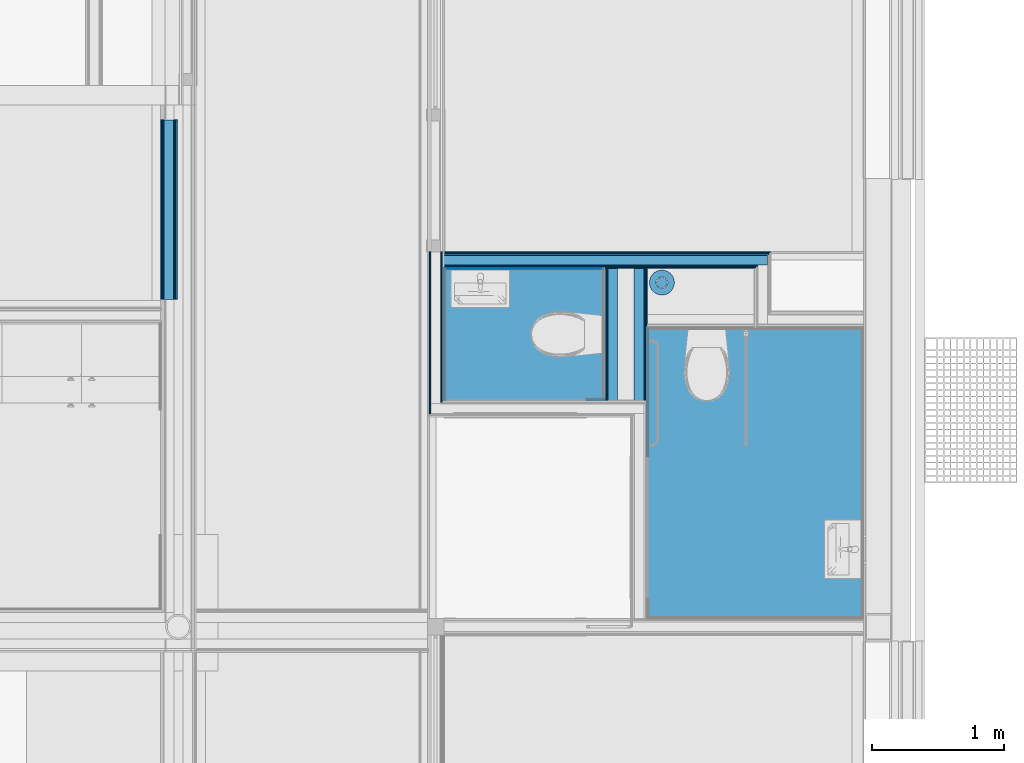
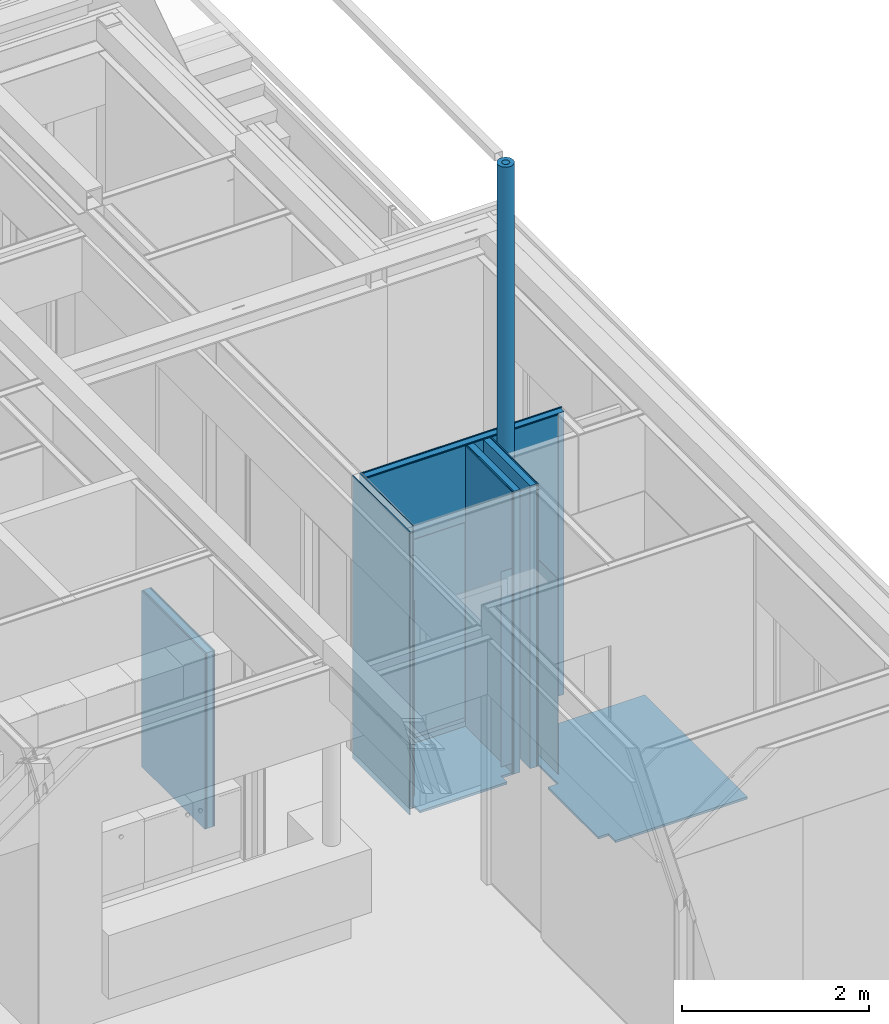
# One storey, part 74 of 165: 27 building element parts, 12 elements without a shape of their own.
"""IFC2X3 building model written with IfcOpenShell, lengths in millimetres."""

from ifc_helpers import new_model, entity, si_unit, converted_unit, derived_unit, money_unit, direction, frame, origin_with_axes, place, context, subcontext, project, spatial, faceted_brep, material, type_object, element, aggregate, save


model = new_model("IFC2X3")

# Units and contexts
model_context = context("Model", 3, precision=0.01, world=origin_with_axes(), true_north=direction((0.0, 1.0)))
body_context = subcontext(model_context, "Body", "Model", "MODEL_VIEW")
ifc_project = project(units=[si_unit("LENGTHUNIT", "METRE", prefix="MILLI"), si_unit("AREAUNIT", "SQUARE_METRE"), si_unit("VOLUMEUNIT", "CUBIC_METRE"), converted_unit("PLANEANGLEUNIT", "DEGREE", entity("IfcPlaneAngleMeasure", 0.0174532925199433), si_unit("PLANEANGLEUNIT", "RADIAN"), dimensions=[0, 0, 0, 0, 0, 0, 0]), money_unit("EUR"), converted_unit("TIMEUNIT", "Year", entity("IfcTimeMeasure", 31556926.0), si_unit("TIMEUNIT", "SECOND"), dimensions=[0, 0, 1, 0, 0, 0, 0]), si_unit("MASSUNIT", "GRAM", prefix="KILO"), si_unit("THERMODYNAMICTEMPERATUREUNIT", "DEGREE_CELSIUS"), si_unit("LUMINOUSINTENSITYUNIT", "LUMEN"), si_unit("ENERGYUNIT", "JOULE", prefix="MEGA"), derived_unit("THERMALCONDUCTANCEUNIT", [(si_unit("POWERUNIT", "WATT"), 1), (si_unit("LENGTHUNIT", "METRE"), -1), (si_unit("THERMODYNAMICTEMPERATUREUNIT", "KELVIN"), -1)]), derived_unit("SPECIFICHEATCAPACITYUNIT", [(si_unit("ENERGYUNIT", "JOULE"), 1), (si_unit("MASSUNIT", "GRAM", prefix="KILO"), -1), (si_unit("THERMODYNAMICTEMPERATUREUNIT", "KELVIN"), -1)]), derived_unit("MASSDENSITYUNIT", [(si_unit("MASSUNIT", "GRAM", prefix="KILO"), 1), (si_unit("VOLUMEUNIT", "CUBIC_METRE"), -1)])], contexts=[model_context])

# Site, building, storey
site_placement = place(None, origin_with_axes())
site = spatial("IfcSite", under=ifc_project, at=site_placement, Name="Site", CompositionType="ELEMENT")
building_placement = place(site_placement, origin_with_axes())
building = spatial("IfcBuilding", under=site, at=building_placement, Name="Naam gebouw", CompositionType="ELEMENT")
storey_placement = place(building_placement, origin_with_axes())
storey = spatial("IfcBuildingStorey", under=building, at=storey_placement, Name="Begane grond", CompositionType="ELEMENT", Elevation=0.0)

# Proxy, building element parts
building_element_proxy_type_1 = type_object("IfcBuildingElementProxyType", Name="22 Metal stud 125 gips 125", PredefinedType="NOTDEFINED")
proxy_1_placement = place(storey_placement, frame((26386.00000000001, 13524.99778166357, -100.0), z_axis=(0.0, 0.0, 1.0), x_axis=(1.0, 0.0, 0.0)))
proxy_1 = element("IfcBuildingElementProxy", 1, at=proxy_1_placement, inside=storey, type_object=building_element_proxy_type_1, Name="_Wand-x")
ifc_material_1 = material(Name="Gipsplaat")
building_element_part_1_placement = place(proxy_1_placement, origin_with_axes())
building_element_part_1 = element("IfcBuildingElementPart", 2, at=building_element_part_1_placement, material=ifc_material_1, Name="Gipsplaat", context=body_context, shape_type="Brep", body=[
    faceted_brep([(2599.999999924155, 112.5000000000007, 0.0), (125.0, 112.5000000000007, 0.0), (125.0, 125.0, 0.0), (2599.999999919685, 125.0, 0.0), (2599.999999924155, 112.5000000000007, 3700.0), (125.0, 112.5000000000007, 3700.0), (125.0, 125.0, 3700.0), (2599.999999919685, 125.0, 3700.0)], [[[0, 1, 2, 3]], [[4, 5, 1, 0]], [[2, 1, 5, 6]], [[3, 2, 6, 7]], [[3, 7, 4, 0]], [[7, 6, 5, 4]]]),
])
building_element_part_2_placement = place(proxy_1_placement, origin_with_axes())
building_element_part_2 = element("IfcBuildingElementPart", 3, at=building_element_part_2_placement, material=ifc_material_1, Name="Gipsplaat", context=body_context, shape_type="Brep", body=[
    faceted_brep([(2499.999999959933, 12.49999999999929, 0.0), (125.0, 12.49999999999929, 0.0), (125.0, 25.00000000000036, 0.0), (2499.99999995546, 25.00000000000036, 0.0), (2499.999999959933, 12.50000000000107, 3700.0), (125.0, 12.50000000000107, 3700.0), (125.0, 25.00000000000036, 3700.0), (2499.99999995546, 25.00000000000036, 3700.0)], [[[0, 1, 2, 3]], [[4, 5, 1, 0]], [[2, 1, 5, 6]], [[3, 2, 6, 7]], [[3, 7, 4, 0]], [[7, 6, 5, 4]]]),
])
building_element_part_3_placement = place(proxy_1_placement, origin_with_axes())
building_element_part_3 = element("IfcBuildingElementPart", 4, at=building_element_part_3_placement, material=ifc_material_1, Name="Gipsplaat", context=body_context, shape_type="Brep", body=[
    faceted_brep([(2587.499999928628, 99.99999999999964, 0.0), (125.0, 99.99999999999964, 0.0), (125.0, 112.5000000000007, 0.0), (2587.499999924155, 112.5000000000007, 0.0), (2587.499999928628, 99.99999999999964, 3700.0), (125.0, 99.99999999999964, 3700.0), (125.0, 112.5000000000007, 3700.0), (2587.499999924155, 112.5000000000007, 3700.0)], [[[0, 1, 2, 3]], [[4, 5, 1, 0]], [[2, 1, 5, 6]], [[3, 2, 6, 7]], [[3, 7, 4, 0]], [[7, 6, 5, 4]]]),
])
ifc_material_2 = material(Name="ALG - LICHTE SCHEIDINGSWAND")
building_element_part_4_placement = place(proxy_1_placement, origin_with_axes())
building_element_part_4 = element("IfcBuildingElementPart", 5, at=building_element_part_4_placement, material=ifc_material_2, Name="ALG - LICHTE SCHEIDINGSWAND", context=body_context, shape_type="Brep", body=[
    faceted_brep([(2574.999999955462, 25.00000000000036, 0.0), (125.0, 25.00000000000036, 0.0), (125.0, 99.99999999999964, 0.0), (2574.999999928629, 99.99999999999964, 0.0), (2574.999999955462, 25.00000000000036, 3700.0), (125.0, 25.00000000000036, 3700.0), (125.0, 99.99999999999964, 3700.0), (2574.999999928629, 99.99999999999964, 3700.0)], [[[0, 1, 2, 3]], [[4, 5, 1, 0]], [[2, 1, 5, 6]], [[3, 2, 6, 7]], [[3, 7, 4, 0]], [[7, 6, 5, 4]]]),
])
building_element_part_5_placement = place(proxy_1_placement, origin_with_axes())
building_element_part_5 = element("IfcBuildingElementPart", 6, at=building_element_part_5_placement, material=ifc_material_1, Name="Gipsplaat", context=body_context, shape_type="Brep", body=[
    faceted_brep([(2487.499999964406, 0.0, 0.0), (125.0, 0.0, 0.0), (125.0, 12.49999999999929, 0.0), (2487.499999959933, 12.49999999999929, 0.0), (2487.499999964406, 0.0, 3700.0), (125.0, 0.0, 3700.0), (125.0, 12.50000000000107, 3700.0), (2487.499999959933, 12.50000000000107, 3700.0)], [[[0, 1, 2, 3]], [[4, 5, 1, 0]], [[2, 1, 5, 6]], [[3, 2, 6, 7]], [[3, 7, 4, 0]], [[7, 6, 5, 4]]]),
])
aggregate(proxy_1, [building_element_part_1, building_element_part_2, building_element_part_3, building_element_part_4, building_element_part_5])

building_element_proxy_type_2 = type_object("IfcBuildingElementProxyType", Name="22 Metal stud 100 voorzetwand 100", PredefinedType="NOTDEFINED")
proxy_2_placement = place(storey_placement, frame((27724.99819637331, 13524.99805904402, -100.0), z_axis=(0.0, 0.0, 1.0), x_axis=(-4.734246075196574e-08, -0.9999999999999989, 0.0)))
proxy_2 = element("IfcBuildingElementProxy", 7, at=proxy_2_placement, inside=storey, type_object=building_element_proxy_type_2, Name="_Wand-x")
building_element_part_6_placement = place(proxy_2_placement, origin_with_axes())
building_element_part_6 = element("IfcBuildingElementPart", 8, at=building_element_part_6_placement, material=ifc_material_2, Name="ALG - LICHTE SCHEIDINGSWAND", context=body_context, shape_type="Brep", body=[
    faceted_brep([(999.998947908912, 25.00004734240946, 0.0), (0.0002761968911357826, 25.00000000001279, 0.0), (0.0002726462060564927, 100.0000000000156, 0.0), (999.9988947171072, 100.0000473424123, 0.0), (999.998947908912, 25.00004734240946, 3700.0), (0.0002761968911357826, 25.00000000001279, 3700.0), (0.0002726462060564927, 100.0000000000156, 3700.0), (999.9988947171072, 100.0000473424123, 3700.0)], [[[0, 1, 2, 3]], [[4, 5, 1, 0]], [[2, 1, 5, 6]], [[3, 2, 6, 7]], [[3, 7, 4, 0]], [[7, 6, 5, 4]]]),
])
building_element_part_7_placement = place(proxy_2_placement, origin_with_axes())
building_element_part_7 = element("IfcBuildingElementPart", 9, at=building_element_part_7_placement, material=ifc_material_1, Name="Gipsplaat", context=body_context, shape_type="Brep", body=[
    faceted_brep([(999.9989567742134, 12.50004734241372, 0.0), (0.0002767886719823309, 12.5000000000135, 0.0), (0.0002761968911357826, 25.00000000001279, 0.0), (999.998947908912, 25.00004734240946, 0.0), (999.9989567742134, 12.50004734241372, 3700.0), (0.0002767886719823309, 12.5000000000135, 3700.0), (0.0002761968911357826, 25.00000000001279, 3700.0), (999.998947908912, 25.00004734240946, 3700.0)], [[[0, 1, 2, 3]], [[4, 5, 1, 0]], [[2, 1, 5, 6]], [[3, 2, 6, 7]], [[3, 7, 4, 0]], [[7, 6, 5, 4]]]),
])
building_element_part_8_placement = place(proxy_2_placement, origin_with_axes())
building_element_part_8 = element("IfcBuildingElementPart", 10, at=building_element_part_8_placement, material=ifc_material_1, Name="Gipsplaat", context=body_context, shape_type="Brep", body=[
    faceted_brep([(999.998965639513, 4.734241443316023e-05, 0.0), (0.0002773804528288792, 0.0, 0.0), (0.0002767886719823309, 12.5000000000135, 0.0), (999.9989567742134, 12.50004734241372, 0.0), (999.998965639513, 4.734241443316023e-05, 3700.0), (0.0002773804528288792, 0.0, 3700.0), (0.0002767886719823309, 12.5000000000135, 3700.0), (999.9989567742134, 12.50004734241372, 3700.0)], [[[0, 1, 2, 3]], [[4, 5, 1, 0]], [[2, 1, 5, 6]], [[3, 2, 6, 7]], [[3, 7, 4, 0]], [[7, 6, 5, 4]]]),
])
aggregate(proxy_2, [building_element_part_6, building_element_part_7, building_element_part_8])

building_element_proxy_type_3 = type_object("IfcBuildingElementProxyType", Name="22 Metal stud 125 oregon pine 125", PredefinedType="NOTDEFINED")
proxy_3_placement = place(storey_placement, frame((26386.00000000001, 13649.99778166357, -100.0), z_axis=(0.0, 0.0, 1.0), x_axis=(0.0, -1.0, 0.0)))
proxy_3 = element("IfcBuildingElementProxy", 11, at=proxy_3_placement, inside=storey, type_object=building_element_proxy_type_3, Name="_Wand-x")
building_element_part_9_placement = place(proxy_3_placement, origin_with_axes())
building_element_part_9 = element("IfcBuildingElementPart", 12, at=building_element_part_9_placement, material=ifc_material_1, Name="Gipsplaat", context=body_context, shape_type="Brep", body=[
    faceted_brep([(1137.499508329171, 100.0000000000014, 0.0), (0.0, 100.0000000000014, 0.0), (0.0, 112.5000000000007, 0.0), (1137.49950005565, 112.5000000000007, 0.0), (1137.499508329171, 100.0000000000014, 3700.0), (0.0, 100.0000000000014, 3700.0), (0.0, 112.5000000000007, 3700.0), (1137.49950005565, 112.5000000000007, 3700.0)], [[[0, 1, 2, 3]], [[4, 5, 1, 0]], [[2, 1, 5, 6]], [[3, 2, 6, 7]], [[3, 7, 4, 0]], [[7, 6, 5, 4]]]),
])
building_element_part_10_placement = place(proxy_3_placement, origin_with_axes())
building_element_part_10 = element("IfcBuildingElementPart", 13, at=building_element_part_10_placement, material=ifc_material_1, Name="Gipsplaat", context=body_context, shape_type="Brep", body=[
    faceted_brep([(1224.999566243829, 12.49999999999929, 0.0), (0.0, 12.49999999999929, 0.0), (0.0, 24.99999999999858, 0.0), (1224.99955797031, 24.99999999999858, 0.0), (1224.999566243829, 12.49999999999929, 3700.0), (0.0, 12.49999999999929, 3700.0), (0.0, 24.99999999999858, 3700.0), (1224.99955797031, 24.99999999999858, 3700.0)], [[[0, 1, 2, 3]], [[4, 5, 1, 0]], [[2, 1, 5, 6]], [[3, 2, 6, 7]], [[3, 7, 4, 0]], [[7, 6, 5, 4]]]),
])
aggregate(proxy_3, [building_element_part_9, building_element_part_10])

proxy_4_placement = place(storey_placement, frame((28049.99885825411, 12524.99930851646, -100.0), z_axis=(0.0, 0.0, 1.0), x_axis=(-6.618815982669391e-07, 0.999999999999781, 0.0)))
proxy_4 = element("IfcBuildingElementProxy", 14, at=proxy_4_placement, inside=storey, type_object=building_element_proxy_type_2, Name="_Wand-x")
building_element_part_11_placement = place(proxy_4_placement, origin_with_axes())
building_element_part_11 = element("IfcBuildingElementPart", 15, at=building_element_part_11_placement, material=ifc_material_2, Name="ALG - LICHTE SCHEIDINGSWAND", context=body_context, shape_type="Brep", body=[
    faceted_brep([(999.9984896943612, 25.00000000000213, 0.0), (0.0, 25.00000000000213, 0.0), (0.0, 99.99999999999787, 0.0), (999.9985393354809, 100.0000000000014, 0.0), (999.9984896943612, 25.00000000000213, 3700.0), (0.0, 25.00000000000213, 3700.0), (0.0, 99.99999999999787, 3700.0), (999.9985393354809, 100.0000000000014, 3700.0)], [[[0, 1, 2, 3]], [[4, 5, 1, 0]], [[2, 1, 5, 6]], [[3, 2, 6, 7]], [[3, 7, 4, 0]], [[7, 6, 5, 4]]]),
])
building_element_part_12_placement = place(proxy_4_placement, origin_with_axes())
building_element_part_12 = element("IfcBuildingElementPart", 16, at=building_element_part_12_placement, material=ifc_material_1, Name="Gipsplaat", context=body_context, shape_type="Brep", body=[
    faceted_brep([(999.9984814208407, 12.50000000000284, 0.0), (0.0, 12.49999999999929, 0.0), (0.0, 25.00000000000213, 0.0), (999.9984896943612, 25.00000000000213, 0.0), (999.9984814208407, 12.50000000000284, 3700.0), (0.0, 12.49999999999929, 3700.0), (0.0, 25.00000000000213, 3700.0), (999.9984896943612, 25.00000000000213, 3700.0)], [[[0, 1, 2, 3]], [[4, 5, 1, 0]], [[2, 1, 5, 6]], [[3, 2, 6, 7]], [[3, 7, 4, 0]], [[7, 6, 5, 4]]]),
])
building_element_part_13_placement = place(proxy_4_placement, origin_with_axes())
building_element_part_13 = element("IfcBuildingElementPart", 17, at=building_element_part_13_placement, material=ifc_material_1, Name="Gipsplaat", context=body_context, shape_type="Brep", body=[
    faceted_brep([(999.9984731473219, 0.0, 0.0), (0.0, 0.0, 0.0), (0.0, 12.49999999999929, 0.0), (999.9984814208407, 12.50000000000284, 0.0), (999.9984731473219, 0.0, 3700.0), (0.0, 0.0, 3700.0), (0.0, 12.49999999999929, 3700.0), (999.9984814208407, 12.50000000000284, 3700.0)], [[[0, 1, 2, 3]], [[4, 5, 1, 0]], [[2, 1, 5, 6]], [[3, 2, 6, 7]], [[3, 7, 4, 0]], [[7, 6, 5, 4]]]),
])
aggregate(proxy_4, [building_element_part_11, building_element_part_12, building_element_part_13])

# Column, building element parts
column_type = type_object("IfcColumnType", Name="50 HWA pluvia 190 x 190", PredefinedType="COLUMN")
column_placement = place(storey_placement, frame((28160.42270007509, 13417.00472609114, -449.9999999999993), z_axis=(0.0, 0.0, 1.0), x_axis=(1.0, 0.0, 0.0)))
column = element("IfcColumn", 18, at=column_placement, inside=storey, type_object=column_type, Name="28_Kolom-x", ObjectType="COLUMN")
ifc_material_3 = material(Name="Isolatie - Kunststof hard")
building_element_part_14_placement = place(column_placement, origin_with_axes())
building_element_part_14 = element("IfcBuildingElementPart", 19, at=building_element_part_14_placement, material=ifc_material_3, Name="Isolatie - Kunststof hard", context=body_context, shape_type="Brep", body=[
    faceted_brep([(94.99999999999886, 0.0, 0.0), (91.15183249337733, 26.76459289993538, 0.0), (91.15183249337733, 26.76459289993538, 7670.0), (94.99999999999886, 0.0, 7670.0), (91.15183249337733, -26.76459289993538, 0.0), (79.9190856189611, -51.36087765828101, 0.0), (62.2117697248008, -71.7962095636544, 0.0), (39.46442623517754, -86.41503955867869, 0.0), (13.5199096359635, -94.03303697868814, 0.0), (-13.5199096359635, -94.03303697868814, 0.0), (-39.46442623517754, -86.41503955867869, 0.0), (-62.2117697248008, -71.7962095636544, 0.0), (-79.9190856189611, -51.36087765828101, 0.0), (-91.15183249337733, -26.76459289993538, 0.0), (-94.99999999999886, 0.0, 0.0), (-91.15183249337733, 26.76459289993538, 0.0), (-79.9190856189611, 51.36087765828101, 0.0), (-62.2117697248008, 71.7962095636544, 0.0), (-39.46442623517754, 86.41503955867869, 0.0), (-13.5199096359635, 94.03303697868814, 0.0), (13.5199096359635, 94.03303697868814, 0.0), (39.46442623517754, 86.41503955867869, 0.0), (62.2117697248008, 71.7962095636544, 0.0), (79.9190856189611, 51.36087765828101, 0.0), (45.00000000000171, 0.0, 0.0), (41.57457896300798, 17.22075445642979, 0.0), (31.81980515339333, 31.81980515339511, 0.0), (17.22075445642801, 41.57457896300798, 0.0), (0.0, 44.99999999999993, 0.0), (-17.22075445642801, 41.57457896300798, 0.0), (-31.81980515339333, 31.81980515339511, 0.0), (-41.57457896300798, 17.22075445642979, 0.0), (-45.00000000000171, 0.0, 0.0), (-41.57457896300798, -17.22075445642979, 0.0), (-31.81980515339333, -31.81980515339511, 0.0), (-17.22075445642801, -41.57457896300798, 0.0), (0.0, -44.99999999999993, 0.0), (17.22075445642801, -41.57457896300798, 0.0), (31.81980515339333, -31.81980515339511, 0.0), (41.57457896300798, -17.22075445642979, 0.0), (79.9190856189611, 51.36087765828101, 7670.0), (62.2117697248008, 71.7962095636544, 7670.0), (39.46442623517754, 86.41503955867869, 7670.0), (13.5199096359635, 94.03303697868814, 7670.0), (-13.5199096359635, 94.03303697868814, 7670.0), (-39.46442623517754, 86.41503955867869, 7670.0), (-62.2117697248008, 71.7962095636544, 7670.0), (-79.9190856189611, 51.36087765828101, 7670.0), (-91.15183249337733, 26.76459289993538, 7670.0), (-94.99999999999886, 0.0, 7670.0), (-91.15183249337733, -26.76459289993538, 7670.0), (-79.9190856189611, -51.36087765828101, 7670.0), (-62.2117697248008, -71.7962095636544, 7670.0), (-39.46442623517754, -86.41503955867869, 7670.0), (-13.5199096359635, -94.03303697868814, 7670.0), (13.5199096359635, -94.03303697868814, 7670.0), (39.46442623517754, -86.41503955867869, 7670.0), (62.2117697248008, -71.7962095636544, 7670.0), (79.9190856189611, -51.36087765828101, 7670.0), (91.15183249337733, -26.76459289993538, 7670.0), (45.00000000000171, 0.0, 7670.0), (41.57457896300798, -17.22075445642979, 7670.0), (31.81980515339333, -31.81980515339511, 7670.0), (17.22075445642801, -41.57457896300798, 7670.0), (0.0, -44.99999999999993, 7670.0), (-17.22075445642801, -41.57457896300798, 7670.0), (-31.81980515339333, -31.81980515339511, 7670.0), (-41.57457896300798, -17.22075445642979, 7670.0), (-45.00000000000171, 0.0, 7670.0), (-41.57457896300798, 17.22075445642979, 7670.0), (-31.81980515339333, 31.81980515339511, 7670.0), (-17.22075445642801, 41.57457896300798, 7670.0), (0.0, 44.99999999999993, 7670.0), (17.22075445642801, 41.57457896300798, 7670.0), (31.81980515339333, 31.81980515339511, 7670.0), (41.57457896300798, 17.22075445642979, 7670.0)], [[[0, 1, 2, 3]], [[0, 4, 5, 6, 7, 8, 9, 10, 11, 12, 13, 14, 15, 16, 17, 18, 19, 20, 21, 22, 23, 1], [24, 25, 26, 27, 28, 29, 30, 31, 32, 33, 34, 35, 36, 37, 38, 39]], [[1, 23, 40, 2]], [[3, 2, 40, 41, 42, 43, 44, 45, 46, 47, 48, 49, 50, 51, 52, 53, 54, 55, 56, 57, 58, 59], [60, 61, 62, 63, 64, 65, 66, 67, 68, 69, 70, 71, 72, 73, 74, 75]], [[4, 0, 3, 59]], [[5, 4, 59, 58]], [[6, 5, 58, 57]], [[7, 6, 57, 56]], [[8, 7, 56, 55]], [[9, 8, 55, 54]], [[10, 9, 54, 53]], [[11, 10, 53, 52]], [[12, 11, 52, 51]], [[13, 12, 51, 50]], [[14, 13, 50, 49]], [[15, 14, 49, 48]], [[16, 15, 48, 47]], [[17, 16, 47, 46]], [[18, 17, 46, 45]], [[19, 18, 45, 44]], [[20, 19, 44, 43]], [[21, 20, 43, 42]], [[22, 21, 42, 41]], [[23, 22, 41, 40]], [[25, 24, 60, 75]], [[26, 25, 75, 74]], [[27, 26, 74, 73]], [[28, 27, 73, 72]], [[29, 28, 72, 71]], [[30, 29, 71, 70]], [[31, 30, 70, 69]], [[32, 31, 69, 68]], [[33, 32, 68, 67]], [[34, 33, 67, 66]], [[35, 34, 66, 65]], [[36, 35, 65, 64]], [[37, 36, 64, 63]], [[38, 37, 63, 62]], [[39, 38, 62, 61]], [[24, 39, 61, 60]]]),
])
ifc_material_4 = material(Name="Lucht kolommen")
building_element_part_15_placement = place(column_placement, origin_with_axes())
building_element_part_15 = element("IfcBuildingElementPart", 20, at=building_element_part_15_placement, material=ifc_material_4, Name="Lucht kolommen", context=body_context, shape_type="Brep", body=[
    faceted_brep([(42.00000000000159, 0.0, 0.0), (38.80294036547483, 16.07270415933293, 0.0), (38.80294036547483, 16.07270415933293, 7670.0), (42.00000000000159, 0.0, 7670.0), (38.80294036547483, -16.07270415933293, 0.0), (29.69848480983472, -29.69848480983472, 0.0), (16.07270415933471, -38.80294036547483, 0.0), (0.0, -41.99999999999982, 0.0), (-16.07270415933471, -38.80294036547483, 0.0), (-29.69848480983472, -29.69848480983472, 0.0), (-38.80294036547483, -16.07270415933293, 0.0), (-42.00000000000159, 0.0, 0.0), (-38.80294036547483, 16.07270415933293, 0.0), (-29.69848480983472, 29.69848480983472, 0.0), (-16.07270415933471, 38.80294036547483, 0.0), (0.0, 41.99999999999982, 0.0), (16.07270415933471, 38.80294036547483, 0.0), (29.69848480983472, 29.69848480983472, 0.0), (29.69848480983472, 29.69848480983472, 7670.0), (16.07270415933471, 38.80294036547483, 7670.0), (0.0, 41.99999999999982, 7670.0), (-16.07270415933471, 38.80294036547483, 7670.0), (-29.69848480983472, 29.69848480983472, 7670.0), (-38.80294036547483, 16.07270415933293, 7670.0), (-42.00000000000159, 0.0, 7670.0), (-38.80294036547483, -16.07270415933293, 7670.0), (-29.69848480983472, -29.69848480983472, 7670.0), (-16.07270415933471, -38.80294036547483, 7670.0), (0.0, -41.99999999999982, 7670.0), (16.07270415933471, -38.80294036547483, 7670.0), (29.69848480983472, -29.69848480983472, 7670.0), (38.80294036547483, -16.07270415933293, 7670.0)], [[[0, 1, 2, 3]], [[0, 4, 5, 6, 7, 8, 9, 10, 11, 12, 13, 14, 15, 16, 17, 1]], [[1, 17, 18, 2]], [[3, 2, 18, 19, 20, 21, 22, 23, 24, 25, 26, 27, 28, 29, 30, 31]], [[4, 0, 3, 31]], [[5, 4, 31, 30]], [[6, 5, 30, 29]], [[7, 6, 29, 28]], [[8, 7, 28, 27]], [[9, 8, 27, 26]], [[10, 9, 26, 25]], [[11, 10, 25, 24]], [[12, 11, 24, 23]], [[13, 12, 23, 22]], [[14, 13, 22, 21]], [[15, 14, 21, 20]], [[16, 15, 20, 19]], [[17, 16, 19, 18]]]),
])
aggregate(column, [building_element_part_14, building_element_part_15])

# Slab, building element part
slab_type = type_object("IfcSlabType", Name="43 Zwevende dekvloer 100", PredefinedType="NOTDEFINED")
slab_1_placement = place(storey_placement, frame((26510.99994761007, 12399.99922612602, 0.0), z_axis=(0.0, 0.0, 1.0), x_axis=(1.0, 0.0, 0.0)))
slab_1 = element("IfcSlab", 21, at=slab_1_placement, inside=storey, type_object=slab_type, Name="_Vloer-x", PredefinedType="NOTDEFINED")
ifc_material_5 = material(Name="Isolatie - XPS zwevende dekvloer")
building_element_part_16_placement = place(slab_1_placement, origin_with_axes())
building_element_part_16 = element("IfcBuildingElementPart", 22, at=building_element_part_16_placement, material=ifc_material_5, Name="Isolatie - XPS zwevende dekvloer", context=body_context, shape_type="Brep", body=[
    faceted_brep([(0.0, 0.0, -100.0), (1079.999913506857, 0.0, -100.0), (1079.999913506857, 0.0, -70.0), (0.0, 0.0, -70.0), (0.0, 1124.998476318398, -100.0), (1213.998247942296, 1124.998476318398, -100.0), (1213.998247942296, 124.9997371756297, -100.0), (1079.999913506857, 124.9997371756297, -100.0), (1079.999913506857, 124.9997371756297, -70.0), (1213.998247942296, 124.9997371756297, -70.0), (1213.998247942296, 1124.998476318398, -70.0), (0.0, 1124.998476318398, -70.0)], [[[0, 1, 2, 3]], [[0, 4, 5, 6, 7, 1]], [[1, 7, 8, 2]], [[3, 2, 8, 9, 10, 11]], [[4, 0, 3, 11]], [[5, 4, 11, 10]], [[6, 5, 10, 9]], [[7, 6, 9, 8]]]),
])
aggregate(slab_1, [building_element_part_16])

slab_2_placement = place(storey_placement, frame((28049.99915021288, 12102.50003298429, 0.0), z_axis=(0.0, 0.0, 1.0), x_axis=(1.0, 0.0, 0.0)))
slab_2 = element("IfcSlab", 23, at=slab_2_placement, inside=storey, type_object=slab_type, Name="_Vloer-x", PredefinedType="NOTDEFINED")
building_element_part_17_placement = place(slab_2_placement, origin_with_axes())
building_element_part_17 = element("IfcBuildingElementPart", 24, at=building_element_part_17_placement, material=ifc_material_5, Name="Isolatie - XPS zwevende dekvloer", context=body_context, shape_type="Brep", body=[
    faceted_brep([(0.0, 0.0, -100.0), (-125.0000861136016, 0.0, -100.0), (-125.0000861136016, 0.0, -70.0), (0.0, 0.0, -70.0), (-0.0005415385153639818, 972.497843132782, -100.0), (1636.000849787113, 972.497843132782, -100.0), (1636.000849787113, -1229.999948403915, -100.0), (0.0008123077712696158, -1229.999948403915, -100.0), (0.0008123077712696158, -1080.000007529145, -100.0), (-124.9992738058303, -1080.000007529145, -100.0), (-124.9992738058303, -1080.000007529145, -70.0), (0.0008123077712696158, -1080.000007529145, -70.0), (0.0008123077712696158, -1229.999948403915, -70.0), (1636.000849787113, -1229.999948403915, -70.0), (1636.000849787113, 972.497843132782, -70.0), (-0.0005415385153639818, 972.497843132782, -70.0)], [[[0, 1, 2, 3]], [[0, 4, 5, 6, 7, 8, 9, 1]], [[1, 9, 10, 2]], [[3, 2, 10, 11, 12, 13, 14, 15]], [[4, 0, 3, 15]], [[5, 4, 15, 14]], [[6, 5, 14, 13]], [[7, 6, 13, 12]], [[8, 7, 12, 11]], [[9, 8, 11, 10]]]),
])
aggregate(slab_2, [building_element_part_17])

# Proxy, building element part
building_element_proxy_type_4 = type_object("IfcBuildingElementProxyType", Name="42 Tegelwerk 2600+ 12 x 2600", PredefinedType="NOTDEFINED")
proxy_5_placement = place(storey_placement, frame((28069.99850745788, 13054.99778100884, 0.0), z_axis=(0.0, 0.0, 1.0), x_axis=(6.618815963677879e-07, -0.999999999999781, 0.0)))
proxy_5 = element("IfcBuildingElementProxy", 25, at=proxy_5_placement, inside=storey, type_object=building_element_proxy_type_4, Name="_Wand-x")
ifc_material_6 = material(Name="21 STO lijmlaag")
building_element_part_18_placement = place(proxy_5_placement, origin_with_axes())
building_element_part_18 = element("IfcBuildingElementPart", 26, at=building_element_part_18_placement, material=ifc_material_6, Name="21 STO lijmlaag", context=body_context, shape_type="Brep", body=[
    faceted_brep([(-13.00001364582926, -13.00000447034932, 50.00000000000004), (-13.00001364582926, -13.00000447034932, 2600.0), (952.4976578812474, -13.00000447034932, 2600.0), (952.4976578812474, -13.00000447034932, 50.00000000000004), (-13.00001827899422, -19.99999552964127, 2600.0), (-13.00001496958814, -14.99999850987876, 50.00000000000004), (-13.00001827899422, -19.99999552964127, 50.00000000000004), (952.4976578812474, -19.99999552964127, 2600.0), (952.4976578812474, -19.99999552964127, 50.00000000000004), (952.4976578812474, -14.99999850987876, 50.00000596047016)], [[[0, 1, 2, 3]], [[4, 1, 0, 5, 6]], [[1, 4, 7, 2]], [[8, 9, 3, 2, 7]], [[5, 0, 3, 9]], [[6, 5, 9, 8]], [[4, 6, 8, 7]]]),
])
aggregate(proxy_5, [building_element_part_18])

proxy_6_placement = place(storey_placement, frame((27590.99998676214, 12544.99900471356, 0.0), z_axis=(0.0, 0.0, 1.0), x_axis=(0.999999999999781, 6.618815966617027e-07, 0.0)))
proxy_6 = element("IfcBuildingElementProxy", 27, at=proxy_6_placement, inside=storey, type_object=building_element_proxy_type_4, Name="_Wand-x")
building_element_part_19_placement = place(proxy_6_placement, origin_with_axes())
building_element_part_19 = element("IfcBuildingElementPart", 28, at=building_element_part_19_placement, material=ifc_material_6, Name="21 STO lijmlaag", context=body_context, shape_type="Brep", body=[
    faceted_brep([(133.9981574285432, -20.00008422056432, 2600.0), (133.9981620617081, -13.00009316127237, 2600.0), (-8.604462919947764e-06, -13.00000447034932, 2600.0), (-1.323762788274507e-05, -19.99999552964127, 2600.0), (133.9981620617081, -13.00009316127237, 50.00000596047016), (133.9981574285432, -20.00008422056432, 50.00000596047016), (133.9981607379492, -15.00008720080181, 50.00000596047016), (-8.604462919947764e-06, -13.00000447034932, 50.00000000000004), (-9.928221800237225e-06, -14.99999850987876, 50.00000596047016), (-1.323762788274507e-05, -19.99999552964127, 50.00000000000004)], [[[0, 1, 2, 3]], [[4, 1, 0, 5, 6]], [[1, 4, 7, 2]], [[2, 7, 8, 9, 3]], [[5, 0, 3, 9]], [[6, 5, 9, 8]], [[4, 6, 8, 7]]]),
])
aggregate(proxy_6, [building_element_part_19])

# Proxy, building element parts
proxy_7_placement = place(storey_placement, frame((27704.99819542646, 13504.99805447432, 0.0), z_axis=(0.0, 0.0, 1.0), x_axis=(-0.9999999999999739, -2.284850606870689e-07, 0.0)))
proxy_7 = element("IfcBuildingElementProxy", 29, at=proxy_7_placement, inside=storey, type_object=building_element_proxy_type_4, Name="_Wand-x")
building_element_part_20_placement = place(proxy_7_placement, origin_with_axes())
building_element_part_20 = element("IfcBuildingElementPart", 30, at=building_element_part_20_placement, material=ifc_material_6, Name="21 STO lijmlaag", context=body_context, shape_type="Brep", body=[
    faceted_brep([(-12.99996199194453, -13.0000044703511, 2600.0), (-12.99996359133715, -19.99999552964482, 2600.0), (1193.998198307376, -19.9999955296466, 2600.0), (1193.998199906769, -13.0000044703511, 2600.0), (-12.99996359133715, -19.99999552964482, 50.00000000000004), (-12.99996199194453, -13.0000044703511, 50.00000000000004), (-12.99996244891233, -14.99999850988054, 50.00000000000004), (1193.998198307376, -19.9999955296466, 50.00000596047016), (1193.998199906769, -13.0000044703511, 50.00000596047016), (1193.998199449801, -14.99999850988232, 50.00000596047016)], [[[0, 1, 2, 3]], [[4, 1, 0, 5, 6]], [[1, 4, 7, 2]], [[8, 3, 2, 7, 9]], [[5, 0, 3, 8]], [[6, 5, 8, 9]], [[4, 6, 9, 7]]]),
])
ifc_material_7 = material(Name="48 vloeivloer Bolidt")
building_element_part_21_placement = place(proxy_7_placement, origin_with_axes())
building_element_part_21 = element("IfcBuildingElementPart", 31, at=building_element_part_21_placement, material=ifc_material_7, Name="48 vloeivloer Bolidt", context=body_context, shape_type="Brep", body=[
    faceted_brep([(-14.99995648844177, -14.99999850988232, 50.00000596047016), (-14.99995763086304, -19.99998360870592, 50.00000596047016), (1193.99819830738, -19.99998360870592, 50.00000596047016), (1193.998199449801, -14.99999850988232, 50.00000596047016), (-14.99995763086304, -19.99998360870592, 0.0), (-14.99995648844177, -14.99999850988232, 0.0), (1193.99819830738, -19.99998360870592, 0.0), (1193.998199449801, -14.99999850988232, 0.0)], [[[0, 1, 2, 3]], [[4, 1, 0, 5]], [[1, 4, 6, 2]], [[3, 2, 6, 7]], [[5, 0, 3, 7]], [[4, 5, 7, 6]]]),
])
aggregate(proxy_7, [building_element_part_20, building_element_part_21])

# Proxy, building element part
proxy_8_placement = place(storey_placement, frame((26531.00000000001, 13504.99778623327, 0.0), z_axis=(0.0, 0.0, 1.0), x_axis=(0.0, -1.0, 0.0)))
proxy_8 = element("IfcBuildingElementProxy", 32, at=proxy_8_placement, inside=storey, type_object=building_element_proxy_type_4, Name="_Wand-x")
building_element_part_22_placement = place(proxy_8_placement, origin_with_axes())
building_element_part_22 = element("IfcBuildingElementPart", 33, at=building_element_part_22_placement, material=ifc_material_6, Name="21 STO lijmlaag", context=body_context, shape_type="Brep", body=[
    faceted_brep([(-13.00000150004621, -13.00000447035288, 50.00000000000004), (-13.00000150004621, -13.00000447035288, 2600.0), (979.9994963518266, -13.00000447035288, 2600.0), (979.9994963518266, -13.00000447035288, 50.00000000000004), (-12.99999990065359, -19.99999552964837, 2600.0), (-13.00000104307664, -14.99999850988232, 50.00000000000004), (-12.99999990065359, -19.99999552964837, 50.00000000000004), (979.9994963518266, -19.99999552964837, 2600.0), (979.9994963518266, -19.99999552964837, 50.00000000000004), (979.9994963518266, -14.99999850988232, 50.00000596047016)], [[[0, 1, 2, 3]], [[4, 1, 0, 5, 6]], [[1, 4, 7, 2]], [[8, 9, 3, 2, 7]], [[5, 0, 3, 9]], [[6, 5, 9, 8]], [[4, 6, 8, 7]]]),
])
aggregate(proxy_8, [building_element_part_22])

# Proxy, building element parts
proxy_9_placement = place(storey_placement, frame((24364.99903999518, 14649.49770206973, -99.99999999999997), z_axis=(0.0, 0.0, 1.0), x_axis=(0.0, -1.0, 0.0)))
proxy_9 = element("IfcBuildingElementProxy", 34, at=proxy_9_placement, inside=storey, type_object=building_element_proxy_type_1, Name="_Wand-x")
building_element_part_23_placement = place(proxy_9_placement, origin_with_axes())
building_element_part_23 = element("IfcBuildingElementPart", 35, at=building_element_part_23_placement, material=ifc_material_1, Name="Gipsplaat", context=body_context, shape_type="Brep", body=[
    faceted_brep([(1360.000000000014, 125.0, 0.0), (1360.000000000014, 112.5000000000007, 0.0), (0.0, 112.5000000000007, 0.0), (0.0, 125.0, 0.0), (1360.000000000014, 125.0, 2300.0), (1360.000000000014, 112.5000000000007, 2300.0), (0.0, 112.5000000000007, 2300.0), (0.0, 125.0, 2300.0)], [[[0, 1, 2, 3]], [[0, 4, 5, 1]], [[1, 5, 6, 2]], [[3, 2, 6, 7]], [[4, 0, 3, 7]], [[5, 4, 7, 6]]]),
])
building_element_part_24_placement = place(proxy_9_placement, origin_with_axes())
building_element_part_24 = element("IfcBuildingElementPart", 36, at=building_element_part_24_placement, material=ifc_material_1, Name="Gipsplaat", context=body_context, shape_type="Brep", body=[
    faceted_brep([(1360.000000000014, 112.5000000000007, 0.0), (1360.000000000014, 100.0000000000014, 0.0), (0.0, 100.0000000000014, 0.0), (0.0, 112.5000000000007, 0.0), (1360.000000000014, 112.5000000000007, 2300.0), (1360.000000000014, 100.0000000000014, 2300.0), (0.0, 100.0000000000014, 2300.0), (0.0, 112.5000000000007, 2300.0)], [[[0, 1, 2, 3]], [[0, 4, 5, 1]], [[1, 5, 6, 2]], [[3, 2, 6, 7]], [[4, 0, 3, 7]], [[5, 4, 7, 6]]]),
])
building_element_part_25_placement = place(proxy_9_placement, origin_with_axes())
building_element_part_25 = element("IfcBuildingElementPart", 37, at=building_element_part_25_placement, material=ifc_material_1, Name="Gipsplaat", context=body_context, shape_type="Brep", body=[
    faceted_brep([(1360.000000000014, 24.99999999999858, 0.0), (1360.000000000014, 12.49999999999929, 0.0), (0.0, 12.49999999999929, 0.0), (0.0, 24.99999999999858, 0.0), (1360.000000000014, 24.99999999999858, 2300.0), (1360.000000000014, 12.49999999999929, 2300.0), (0.0, 12.49999999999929, 2300.0), (0.0, 24.99999999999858, 2300.0)], [[[0, 1, 2, 3]], [[0, 4, 5, 1]], [[1, 5, 6, 2]], [[3, 2, 6, 7]], [[4, 0, 3, 7]], [[5, 4, 7, 6]]]),
])
building_element_part_26_placement = place(proxy_9_placement, origin_with_axes())
building_element_part_26 = element("IfcBuildingElementPart", 38, at=building_element_part_26_placement, material=ifc_material_1, Name="Gipsplaat", context=body_context, shape_type="Brep", body=[
    faceted_brep([(1360.000000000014, 12.49999999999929, 0.0), (1360.000000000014, 0.0, 0.0), (0.0, 0.0, 0.0), (0.0, 12.49999999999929, 0.0), (1360.000000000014, 12.49999999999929, 2300.0), (1360.000000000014, 0.0, 2300.0), (0.0, 0.0, 2300.0), (0.0, 12.49999999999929, 2300.0)], [[[0, 1, 2, 3]], [[0, 4, 5, 1]], [[1, 5, 6, 2]], [[3, 2, 6, 7]], [[4, 0, 3, 7]], [[5, 4, 7, 6]]]),
])
building_element_part_27_placement = place(proxy_9_placement, origin_with_axes())
building_element_part_27 = element("IfcBuildingElementPart", 39, at=building_element_part_27_placement, material=ifc_material_2, Name="ALG - LICHTE SCHEIDINGSWAND", context=body_context, shape_type="Brep", body=[
    faceted_brep([(1360.000000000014, 100.0000000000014, 0.0), (1360.000000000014, 24.99999999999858, 0.0), (0.0, 24.99999999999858, 0.0), (0.0, 100.0000000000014, 0.0), (1360.000000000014, 100.0000000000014, 2300.0), (1360.000000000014, 24.99999999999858, 2300.0), (0.0, 24.99999999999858, 2300.0), (0.0, 100.0000000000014, 2300.0)], [[[0, 1, 2, 3]], [[0, 4, 5, 1]], [[1, 5, 6, 2]], [[3, 2, 6, 7]], [[4, 0, 3, 7]], [[5, 4, 7, 6]]]),
])
aggregate(proxy_9, [building_element_part_23, building_element_part_24, building_element_part_25, building_element_part_26, building_element_part_27])

save(model, "model.ifc")
